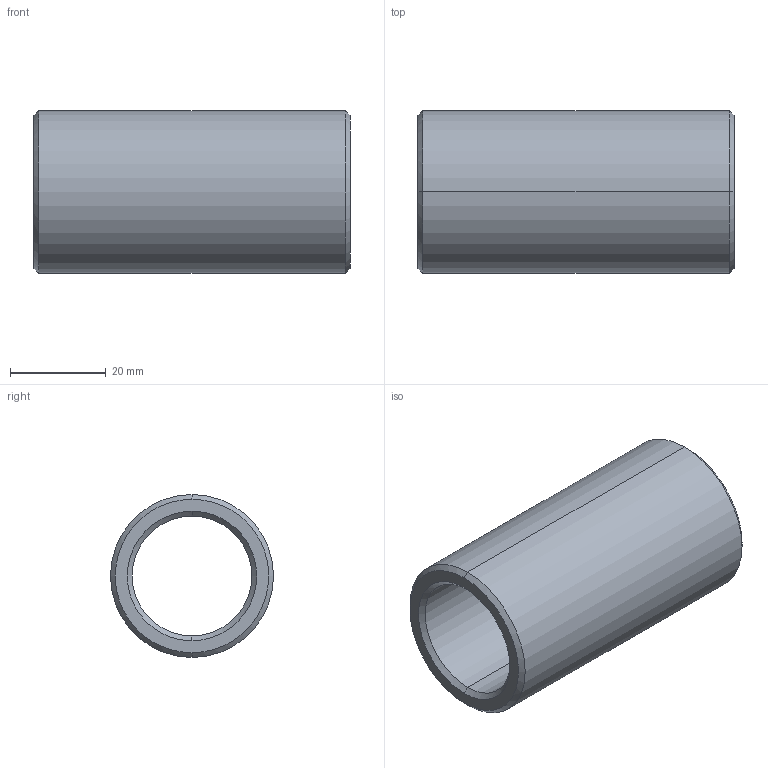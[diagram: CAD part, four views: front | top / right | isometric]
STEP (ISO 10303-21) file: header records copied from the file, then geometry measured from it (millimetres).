
FILE_DESCRIPTION(('CATIA V5 STEP Exchange'),'2;1');
FILE_NAME('C:\Users\Utente\Desktop\IO LAVORO\3D X SITO CF\X SITO\PLASTICA\352\352-25X66.stp','2021-04-14T15:28:05+00:00',('none'),('none'),'CATIA Version 5 Release 20 GA (IN-10)','CATIA V5 STEP AP203','none');
FILE_SCHEMA(('CONFIG_CONTROL_DESIGN'));
Length unit declared in the file: millimetre
Products named in the file (1): 352-25X66
Bounding box: 66 x 34 x 34 mm (x, y, z)
Volume: 27362.9 mm3; surface area: 12861.7 mm2
Topology: 1 solids, 1 shells, 14 faces, 44 edges, 32 vertices
Faces by surface type: cone 6, cylinder 4, plane 2, torus 2
Entity records: 634 total; most frequent: CARTESIAN_POINT 203, ORIENTED_EDGE 88, DIRECTION 64, EDGE_CURVE 44, AXIS2_PLACEMENT_3D 41, VERTEX_POINT 32, CIRCLE 26, EDGE_LOOP 16
